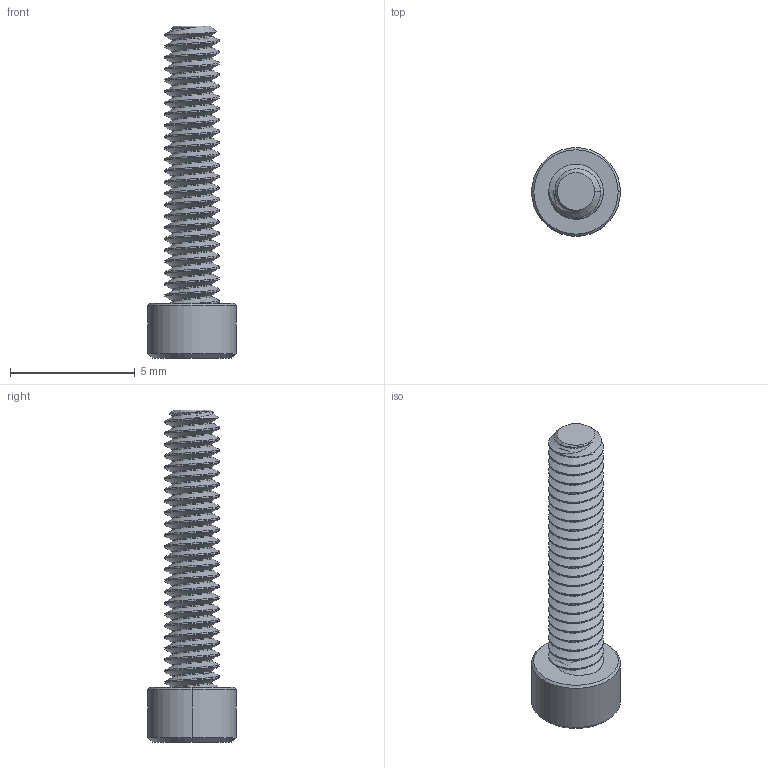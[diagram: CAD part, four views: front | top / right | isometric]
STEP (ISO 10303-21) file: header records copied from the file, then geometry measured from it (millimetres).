
FILE_DESCRIPTION (( 'STEP AP214' ), '1' );
FILE_NAME ('LHWX0213420AA3.STEP', '2017-11-06T15:20:32', ( 'me' ), ( '' ), 'SwSTEP 2.0', 'SolidWorks 2017', '' );
FILE_SCHEMA (( 'AUTOMOTIVE_DESIGN' ));
Length unit declared in the file: inch
Products named in the file (2): LHWX0213420AA3; LHWD0213420_92196A082
Assembly tree (1 placements, depth 2):
  LHWX0213420AA3
    LHWD0213420_92196A082
Bounding box: 3.56 x 3.56 x 13.3 mm (x, y, z)
Volume: 47.8 mm3; surface area: 166.3 mm2
Topology: 1 solids, 1 shells, 126 faces, 349 edges, 227 vertices
Faces by surface type: cylinder 101, cone 13, plane 10, bspline 2
Entity records: 6290 total; most frequent: CARTESIAN_POINT 3609, ORIENTED_EDGE 698, DIRECTION 416, EDGE_CURVE 349, VERTEX_POINT 227, AXIS2_PLACEMENT_3D 149, EDGE_LOOP 128, ADVANCED_FACE 126
